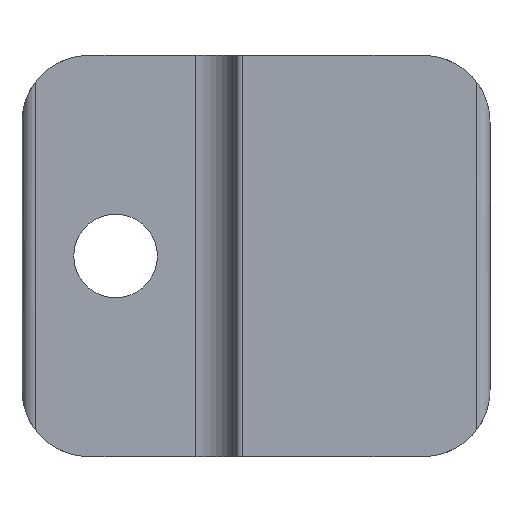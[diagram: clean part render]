
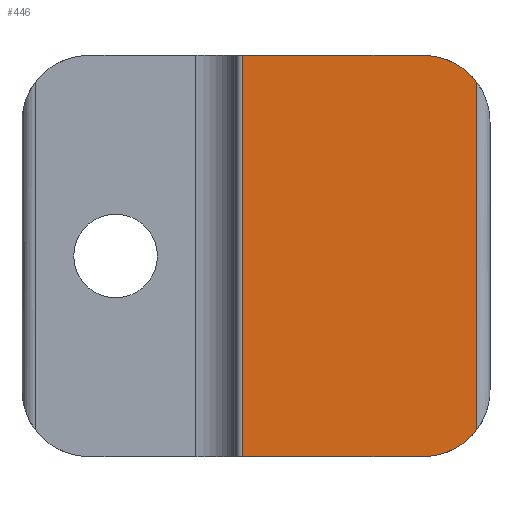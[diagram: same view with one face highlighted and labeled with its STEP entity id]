
A CAD part, left-side view. The second image highlights one B-rep face of the part: STEP entity #446.
In plain terms, the highlighted planar face has unit normal (-1, 0, 0).
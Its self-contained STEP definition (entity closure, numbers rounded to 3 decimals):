
#6 = VECTOR ( 'NONE', #1146, 1000. ) ;
#27 = DIRECTION ( 'NONE',  ( 0., 0., -1. ) ) ;
#67 = DIRECTION ( 'NONE',  ( 0., 1., 0. ) ) ;
#75 = CARTESIAN_POINT ( 'NONE',  ( -11., -12.3, 10. ) ) ;
#92 = EDGE_CURVE ( 'NONE', #265, #835, #425, .T. ) ;
#101 = EDGE_CURVE ( 'NONE', #1249, #265, #639, .T. ) ;
#110 = CARTESIAN_POINT ( 'NONE',  ( -11., -16.3, 13. ) ) ;
#130 = CARTESIAN_POINT ( 'NONE',  ( -11., 1.2, 15. ) ) ;
#173 = EDGE_CURVE ( 'NONE', #1103, #885, #668, .T. ) ;
#196 = ORIENTED_EDGE ( 'NONE', *, *, #626, .F. ) ;
#237 = PLANE ( 'NONE',  #976 ) ;
#240 = AXIS2_PLACEMENT_3D ( 'NONE', #1199, #1018, #324 ) ;
#259 = DIRECTION ( 'NONE',  ( 0., 1., 0. ) ) ;
#265 = VERTEX_POINT ( 'NONE', #110 ) ;
#267 = ORIENTED_EDGE ( 'NONE', *, *, #173, .T. ) ;
#274 = DIRECTION ( 'NONE',  ( 0., -1., 0. ) ) ;
#324 = DIRECTION ( 'NONE',  ( 0., 1., 0. ) ) ;
#326 = EDGE_CURVE ( 'NONE', #885, #1249, #905, .T. ) ;
#349 = CARTESIAN_POINT ( 'NONE',  ( -11., 1.2, -15. ) ) ;
#366 = CARTESIAN_POINT ( 'NONE',  ( -11., 1.2, 15. ) ) ;
#388 = CARTESIAN_POINT ( 'NONE',  ( -11., 1.7, -15. ) ) ;
#410 = LINE ( 'NONE', #130, #606 ) ;
#425 = CIRCLE ( 'NONE', #494, 5. ) ;
#446 = ADVANCED_FACE ( 'NONE', ( #638 ), #237, .F. ) ;
#460 = VERTEX_POINT ( 'NONE', #366 ) ;
#487 = CARTESIAN_POINT ( 'NONE',  ( -11., -16.3, -13. ) ) ;
#494 = AXIS2_PLACEMENT_3D ( 'NONE', #75, #1133, #67 ) ;
#534 = VECTOR ( 'NONE', #274, 1000. ) ;
#568 = CARTESIAN_POINT ( 'NONE',  ( -11., -12.3, -15. ) ) ;
#606 = VECTOR ( 'NONE', #27, 1000. ) ;
#611 = CARTESIAN_POINT ( 'NONE',  ( -11., 1.7, 15. ) ) ;
#626 = EDGE_CURVE ( 'NONE', #460, #835, #1198, .T. ) ;
#638 = FACE_OUTER_BOUND ( 'NONE', #878, .T. ) ;
#639 = LINE ( 'NONE', #1039, #6 ) ;
#668 = LINE ( 'NONE', #388, #534 ) ;
#684 = ORIENTED_EDGE ( 'NONE', *, *, #994, .T. ) ;
#817 = DIRECTION ( 'NONE',  ( 0., -1., 0. ) ) ;
#835 = VERTEX_POINT ( 'NONE', #1176 ) ;
#878 = EDGE_LOOP ( 'NONE', ( #267, #1149, #1086, #1004, #196, #684 ) ) ;
#885 = VERTEX_POINT ( 'NONE', #568 ) ;
#905 = CIRCLE ( 'NONE', #240, 5. ) ;
#916 = VECTOR ( 'NONE', #817, 1000. ) ;
#976 = AXIS2_PLACEMENT_3D ( 'NONE', #1037, #1137, #259 ) ;
#994 = EDGE_CURVE ( 'NONE', #460, #1103, #410, .T. ) ;
#1004 = ORIENTED_EDGE ( 'NONE', *, *, #92, .T. ) ;
#1018 = DIRECTION ( 'NONE',  ( -1., 0., 0. ) ) ;
#1037 = CARTESIAN_POINT ( 'NONE',  ( -11., 1.7, 15. ) ) ;
#1039 = CARTESIAN_POINT ( 'NONE',  ( -11., -16.3, 15. ) ) ;
#1086 = ORIENTED_EDGE ( 'NONE', *, *, #101, .T. ) ;
#1103 = VERTEX_POINT ( 'NONE', #349 ) ;
#1133 = DIRECTION ( 'NONE',  ( -1., 0., 0. ) ) ;
#1137 = DIRECTION ( 'NONE',  ( 1., 0., 0. ) ) ;
#1146 = DIRECTION ( 'NONE',  ( 0., 0., 1. ) ) ;
#1149 = ORIENTED_EDGE ( 'NONE', *, *, #326, .T. ) ;
#1176 = CARTESIAN_POINT ( 'NONE',  ( -11., -12.3, 15. ) ) ;
#1198 = LINE ( 'NONE', #611, #916 ) ;
#1199 = CARTESIAN_POINT ( 'NONE',  ( -11., -12.3, -10. ) ) ;
#1249 = VERTEX_POINT ( 'NONE', #487 ) ;
